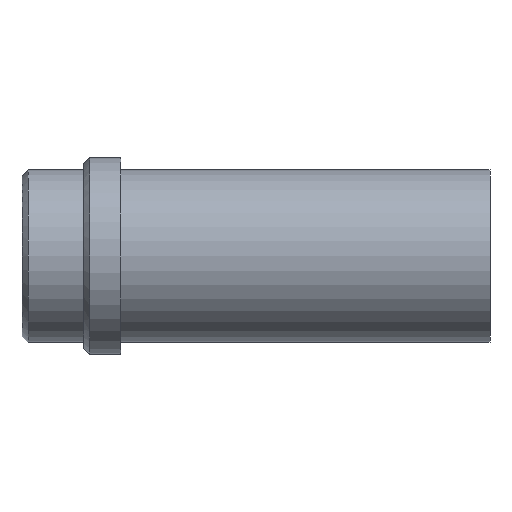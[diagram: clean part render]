
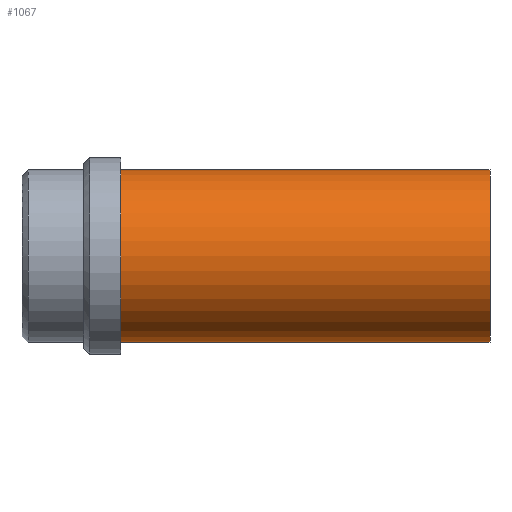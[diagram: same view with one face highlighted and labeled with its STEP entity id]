
A CAD part, front view. The second image highlights one B-rep face of the part: STEP entity #1067.
In plain terms, the highlighted cylindrical face has radius 14 mm (diameter 28 mm), a partial arc.
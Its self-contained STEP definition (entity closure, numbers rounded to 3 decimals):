
#953=CARTESIAN_POINT('Vertex',(0.,0.,-14.)) ;
#958=CARTESIAN_POINT('Axis2P3D Location',(0.,0.,0.)) ;
#962=CARTESIAN_POINT('Vertex',(0.,-14.,0.)) ;
#965=CARTESIAN_POINT('Axis2P3D Location',(0.,0.,0.)) ;
#969=CARTESIAN_POINT('Vertex',(0.,0.,14.)) ;
#995=CARTESIAN_POINT('Vertex',(60.,0.,14.)) ;
#998=CARTESIAN_POINT('Axis2P3D Location',(60.,0.,0.)) ;
#1002=CARTESIAN_POINT('Vertex',(60.,-14.,0.)) ;
#1005=CARTESIAN_POINT('Axis2P3D Location',(60.,0.,0.)) ;
#1009=CARTESIAN_POINT('Vertex',(60.,0.,-14.)) ;
#1035=CARTESIAN_POINT('Line Origine',(60.,0.,14.)) ;
#1040=CARTESIAN_POINT('Line Origine',(60.,0.,-14.)) ;
#1054=CARTESIAN_POINT('Axis2P3D Location',(60.,0.,0.)) ;
#959=DIRECTION('Axis2P3D Direction',(1.,0.,-0.)) ;
#966=DIRECTION('Axis2P3D Direction',(1.,0.,-0.)) ;
#999=DIRECTION('Axis2P3D Direction',(1.,0.,-0.)) ;
#1006=DIRECTION('Axis2P3D Direction',(1.,0.,-0.)) ;
#1036=DIRECTION('Vector Direction',(-1.,0.,0.)) ;
#1041=DIRECTION('Vector Direction',(-1.,0.,0.)) ;
#1055=DIRECTION('Axis2P3D Direction',(-1.,-0.,-0.)) ;
#1056=DIRECTION('Axis2P3D XDirection',(0.,0.,-1.)) ;
#960=AXIS2_PLACEMENT_3D('Circle Axis2P3D',#958,#959,$) ;
#967=AXIS2_PLACEMENT_3D('Circle Axis2P3D',#965,#966,$) ;
#1000=AXIS2_PLACEMENT_3D('Circle Axis2P3D',#998,#999,$) ;
#1007=AXIS2_PLACEMENT_3D('Circle Axis2P3D',#1005,#1006,$) ;
#1057=AXIS2_PLACEMENT_3D('Cylinder Axis2P3D',#1054,#1055,#1056) ;
#1060=ORIENTED_EDGE('',*,*,#1044,.T.) ;
#1061=ORIENTED_EDGE('',*,*,#1011,.F.) ;
#1062=ORIENTED_EDGE('',*,*,#1004,.F.) ;
#1063=ORIENTED_EDGE('',*,*,#1039,.T.) ;
#1064=ORIENTED_EDGE('',*,*,#971,.T.) ;
#1065=ORIENTED_EDGE('',*,*,#964,.T.) ;
#1037=VECTOR('Line Direction',#1036,1.) ;
#1042=VECTOR('Line Direction',#1041,1.) ;
#1067=ADVANCED_FACE('358-20X76',(#1066),#1058,.T.) ;
#961=CIRCLE('generated circle',#960,14.) ;
#968=CIRCLE('generated circle',#967,14.) ;
#1001=CIRCLE('generated circle',#1000,14.) ;
#1008=CIRCLE('generated circle',#1007,14.) ;
#1058=CYLINDRICAL_SURFACE('generated cylinder',#1057,14.) ;
#964=EDGE_CURVE('',#963,#954,#961,.T.) ;
#971=EDGE_CURVE('',#970,#963,#968,.T.) ;
#1004=EDGE_CURVE('',#996,#1003,#1001,.T.) ;
#1011=EDGE_CURVE('',#1003,#1010,#1008,.T.) ;
#1039=EDGE_CURVE('',#996,#970,#1038,.T.) ;
#1044=EDGE_CURVE('',#954,#1010,#1043,.F.) ;
#1059=EDGE_LOOP('',(#1060,#1061,#1062,#1063,#1064,#1065)) ;
#1066=FACE_OUTER_BOUND('',#1059,.T.) ;
#1038=LINE('Line',#1035,#1037) ;
#1043=LINE('Line',#1040,#1042) ;
#954=VERTEX_POINT('',#953) ;
#963=VERTEX_POINT('',#962) ;
#970=VERTEX_POINT('',#969) ;
#996=VERTEX_POINT('',#995) ;
#1003=VERTEX_POINT('',#1002) ;
#1010=VERTEX_POINT('',#1009) ;
